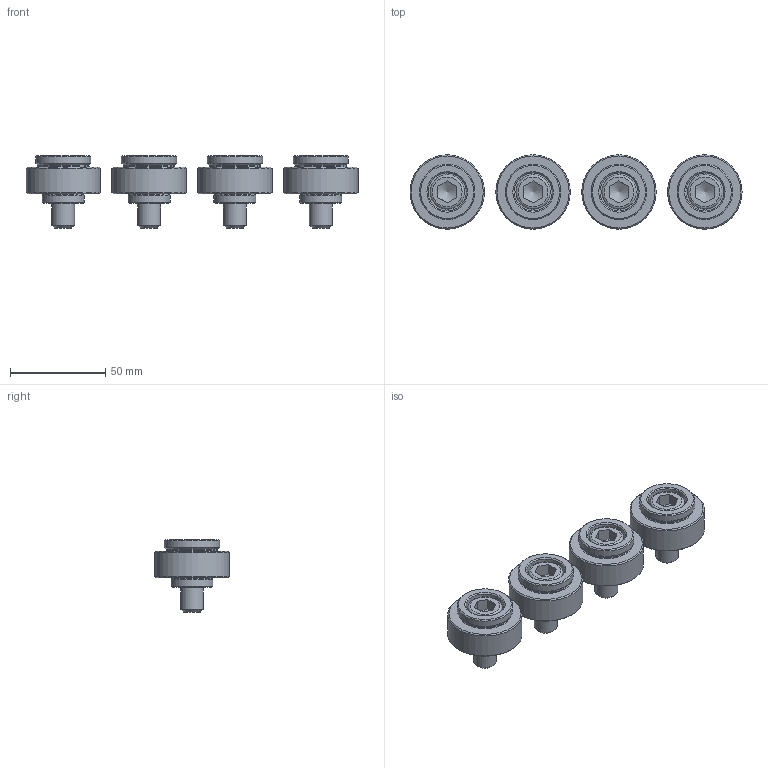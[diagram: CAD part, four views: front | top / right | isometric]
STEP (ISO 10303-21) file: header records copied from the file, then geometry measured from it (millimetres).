
FILE_DESCRIPTION(('STEP AP214'), '1');
FILE_NAME('BB.VS.100.50.020 捘', '', ('UNSPECIFIED'), ('UNSPECIFIED'), 'C3D Converter', 'C3D Toolkit', '');
FILE_SCHEMA(('AUTOMOTIVE_DESIGN { 1 0 10303 214 3 1 1}'));
Length unit declared in the file: millimetre
Products named in the file (2): BB.VS.100.50.020 СБ
Assembly tree (4 placements, depth 2):
  BB.VS.100.50.020 СБ
    BB.VS.100.50.020 СБ  x4
Bounding box: 174 x 39 x 38 mm (x, y, z)
Volume: 87422.9 mm3; surface area: 32264.6 mm2
Topology: 4 solids, 4 shells, 152 faces, 296 edges, 176 vertices
Faces by surface type: plane 56, cone 48, cylinder 32, torus 16
Full cylindrical faces by diameter (mm): 12 x4, 13 x4, 18 x4, 20 x4, 22 x4, 27 x4, 29 x4, 39 x4
Entity records: 1244 total; most frequent: CARTESIAN_POINT 402, DIRECTION 158, ORIENTED_EDGE 98, AXIS2_PLACEMENT_3D 73, EDGE_LOOP 68, EDGE_CURVE 49, FACE_OUTER_BOUND 46, VERTEX_POINT 43
